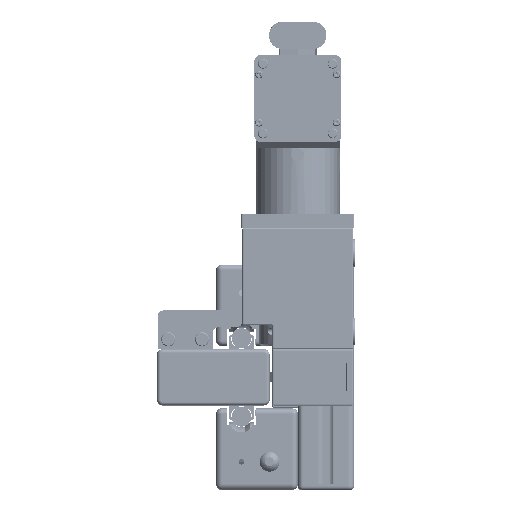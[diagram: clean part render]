
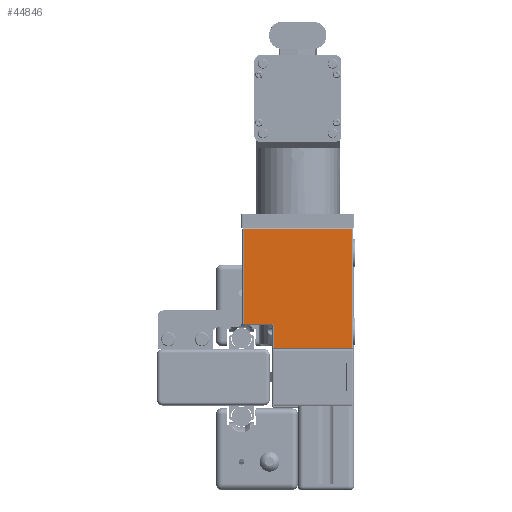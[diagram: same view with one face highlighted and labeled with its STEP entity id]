
A CAD part, front view. The second image highlights one B-rep face of the part: STEP entity #44846.
In plain terms, the highlighted planar face has unit normal (0, -1, 0) as drawn and (1, 0, 0) by its records, which use the part's own axes.
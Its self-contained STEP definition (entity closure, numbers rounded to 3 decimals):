
#3763=CIRCLE('',#54443,2.);
#13627=ORIENTED_EDGE('',*,*,#21573,.T.);
#13628=ORIENTED_EDGE('',*,*,#21574,.T.);
#13629=ORIENTED_EDGE('',*,*,#21575,.F.);
#13630=ORIENTED_EDGE('',*,*,#21576,.T.);
#13631=ORIENTED_EDGE('',*,*,#21577,.T.);
#13632=ORIENTED_EDGE('',*,*,#21578,.T.);
#13633=ORIENTED_EDGE('',*,*,#21579,.T.);
#21573=EDGE_CURVE('',#26354,#26355,#30330,.T.);
#21574=EDGE_CURVE('',#26355,#26356,#30331,.F.);
#21575=EDGE_CURVE('',#26357,#26356,#3763,.T.);
#21576=EDGE_CURVE('',#26357,#26358,#30332,.F.);
#21577=EDGE_CURVE('',#26358,#26359,#30333,.F.);
#21578=EDGE_CURVE('',#26359,#26360,#30334,.F.);
#21579=EDGE_CURVE('',#26360,#26354,#30335,.T.);
#26354=VERTEX_POINT('',#80163);
#26355=VERTEX_POINT('',#80164);
#26356=VERTEX_POINT('',#80166);
#26357=VERTEX_POINT('',#80168);
#26358=VERTEX_POINT('',#80170);
#26359=VERTEX_POINT('',#80172);
#26360=VERTEX_POINT('',#80174);
#30330=LINE('',#80162,#33913);
#30331=LINE('',#80165,#33914);
#30332=LINE('',#80169,#33915);
#30333=LINE('',#80171,#33916);
#30334=LINE('',#80173,#33917);
#30335=LINE('',#80175,#33918);
#33913=VECTOR('',#66061,1000.);
#33914=VECTOR('',#66062,1000.);
#33915=VECTOR('',#66065,1000.);
#33916=VECTOR('',#66066,1000.);
#33917=VECTOR('',#66067,1000.);
#33918=VECTOR('',#66068,1000.);
#36961=EDGE_LOOP('',(#13627,#13628,#13629,#13630,#13631,#13632,#13633));
#40479=FACE_BOUND('',#36961,.T.);
#42639=PLANE('',#54442);
#44846=ADVANCED_FACE('',(#40479),#42639,.T.);
#54442=AXIS2_PLACEMENT_3D('',#80161,#66059,#66060);
#54443=AXIS2_PLACEMENT_3D('',#80167,#66063,#66064);
#66059=DIRECTION('',(1.,0.,0.));
#66060=DIRECTION('',(0.,0.,-1.));
#66061=DIRECTION('',(0.,1.,0.));
#66062=DIRECTION('',(0.,0.,-1.));
#66063=DIRECTION('',(1.,0.,0.));
#66064=DIRECTION('',(0.,0.,-1.));
#66065=DIRECTION('',(0.,-1.,0.));
#66066=DIRECTION('',(0.,0.,-1.));
#66067=DIRECTION('',(0.,1.,0.));
#66068=DIRECTION('',(0.,0.,-1.));
#80161=CARTESIAN_POINT('',(50.,-43.,39.5));
#80162=CARTESIAN_POINT('',(50.,-43.,-38.5));
#80163=CARTESIAN_POINT('',(50.,-42.,-38.5));
#80164=CARTESIAN_POINT('',(50.,25.,-38.5));
#80165=CARTESIAN_POINT('',(50.,25.,-18.));
#80166=CARTESIAN_POINT('',(50.,25.,-19.));
#80167=CARTESIAN_POINT('',(50.,27.,-19.));
#80168=CARTESIAN_POINT('',(50.,27.,-17.));
#80169=CARTESIAN_POINT('',(50.,43.,-17.));
#80170=CARTESIAN_POINT('',(50.,42.,-17.));
#80171=CARTESIAN_POINT('',(50.,42.,39.5));
#80172=CARTESIAN_POINT('',(50.,42.,38.5));
#80173=CARTESIAN_POINT('',(50.,-43.,38.5));
#80174=CARTESIAN_POINT('',(50.,-42.,38.5));
#80175=CARTESIAN_POINT('',(50.,-42.,-39.5));
